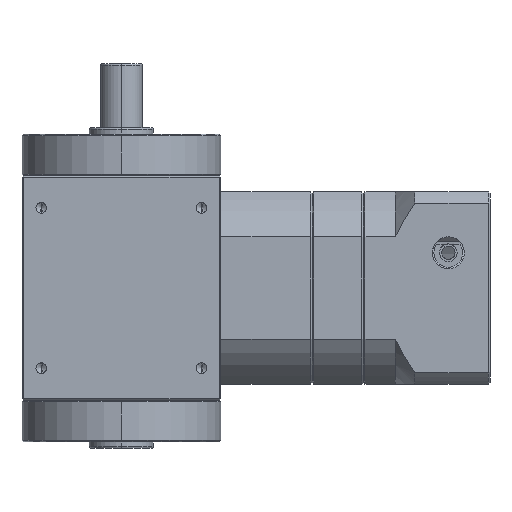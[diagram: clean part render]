
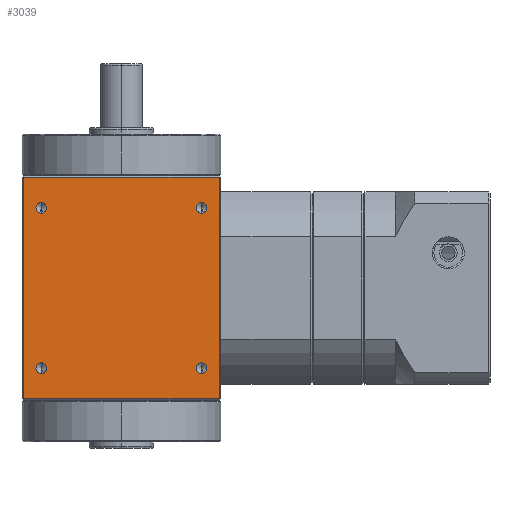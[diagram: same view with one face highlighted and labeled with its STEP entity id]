
A CAD part, left-side view. The second image highlights one B-rep face of the part: STEP entity #3039.
In plain terms, the highlighted planar face has unit normal (-1, 0, 0).
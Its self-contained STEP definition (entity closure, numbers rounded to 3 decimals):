
#647 = ORIENTED_EDGE ( 'NONE', *, *, #1126, .F. ) ;
#648 = ORIENTED_EDGE ( 'NONE', *, *, #2254, .F. ) ;
#649 = ORIENTED_EDGE ( 'NONE', *, *, #1111, .F. ) ;
#650 = ORIENTED_EDGE ( 'NONE', *, *, #1894, .F. ) ;
#651 = ORIENTED_EDGE ( 'NONE', *, *, #1119, .F. ) ;
#652 = ORIENTED_EDGE ( 'NONE', *, *, #1144, .F. ) ;
#653 = ORIENTED_EDGE ( 'NONE', *, *, #1117, .F. ) ;
#654 = ORIENTED_EDGE ( 'NONE', *, *, #1931, .F. ) ;
#655 = ORIENTED_EDGE ( 'NONE', *, *, #1113, .T. ) ;
#656 = ORIENTED_EDGE ( 'NONE', *, *, #1135, .T. ) ;
#657 = ORIENTED_EDGE ( 'NONE', *, *, #1134, .T. ) ;
#658 = ORIENTED_EDGE ( 'NONE', *, *, #1133, .T. ) ;
#1111 = EDGE_CURVE ( 'NONE', #3659, #3656, #4171, .T. ) ;
#1113 = EDGE_CURVE ( 'NONE', #3752, #3733, #4175, .T. ) ;
#1117 = EDGE_CURVE ( 'NONE', #3671, #3670, #4181, .T. ) ;
#1119 = EDGE_CURVE ( 'NONE', #3667, #3666, #4183, .T. ) ;
#1126 = EDGE_CURVE ( 'NONE', #3549, #3551, #4190, .T. ) ;
#1133 = EDGE_CURVE ( 'NONE', #3755, #3752, #4193, .T. ) ;
#1134 = EDGE_CURVE ( 'NONE', #3754, #3755, #4196, .T. ) ;
#1135 = EDGE_CURVE ( 'NONE', #3733, #3754, #4198, .T. ) ;
#1144 = EDGE_CURVE ( 'NONE', #3666, #3667, #4204, .T. ) ;
#1579 = EDGE_LOOP ( 'NONE', ( #651, #652 ) ) ;
#1603 = EDGE_LOOP ( 'NONE', ( #655, #656, #657, #658 ) ) ;
#1644 = EDGE_LOOP ( 'NONE', ( #653, #654 ) ) ;
#1647 = EDGE_LOOP ( 'NONE', ( #649, #650 ) ) ;
#1654 = EDGE_LOOP ( 'NONE', ( #647, #648 ) ) ;
#1894 = EDGE_CURVE ( 'NONE', #3656, #3659, #6447, .T. ) ;
#1931 = EDGE_CURVE ( 'NONE', #3670, #3671, #6508, .T. ) ;
#2254 = EDGE_CURVE ( 'NONE', #3551, #3549, #7937, .T. ) ;
#3039 = ADVANCED_FACE ( 'NONE', ( #8121, #8125, #8123, #8124, #8122 ), #9048, .F. ) ;
#3549 = VERTEX_POINT ( 'NONE', #9298 ) ;
#3551 = VERTEX_POINT ( 'NONE', #9299 ) ;
#3656 = VERTEX_POINT ( 'NONE', #9339 ) ;
#3659 = VERTEX_POINT ( 'NONE', #9352 ) ;
#3666 = VERTEX_POINT ( 'NONE', #9359 ) ;
#3667 = VERTEX_POINT ( 'NONE', #9360 ) ;
#3670 = VERTEX_POINT ( 'NONE', #9363 ) ;
#3671 = VERTEX_POINT ( 'NONE', #9364 ) ;
#3733 = VERTEX_POINT ( 'NONE', #9426 ) ;
#3752 = VERTEX_POINT ( 'NONE', #9445 ) ;
#3754 = VERTEX_POINT ( 'NONE', #9447 ) ;
#3755 = VERTEX_POINT ( 'NONE', #9448 ) ;
#4171 = CIRCLE ( 'NONE', #4824, 1.65 ) ;
#4175 = LINE ( 'NONE', #5421, #4177 ) ;
#4177 = VECTOR ( 'NONE', #5426, 1000. ) ;
#4181 = CIRCLE ( 'NONE', #4826, 1.65 ) ;
#4183 = CIRCLE ( 'NONE', #4828, 1.65 ) ;
#4190 = CIRCLE ( 'NONE', #4830, 1.65 ) ;
#4193 = LINE ( 'NONE', #5519, #4197 ) ;
#4196 = LINE ( 'NONE', #5523, #4199 ) ;
#4197 = VECTOR ( 'NONE', #5512, 1000. ) ;
#4198 = LINE ( 'NONE', #5525, #4201 ) ;
#4199 = VECTOR ( 'NONE', #5524, 1000. ) ;
#4201 = VECTOR ( 'NONE', #5526, 1000. ) ;
#4204 = CIRCLE ( 'NONE', #4834, 1.65 ) ;
#4824 = AXIS2_PLACEMENT_3D ( 'NONE', #5423, #5424, #5425 ) ;
#4826 = AXIS2_PLACEMENT_3D ( 'NONE', #5448, #5449, #5450 ) ;
#4828 = AXIS2_PLACEMENT_3D ( 'NONE', #5456, #5457, #5458 ) ;
#4830 = AXIS2_PLACEMENT_3D ( 'NONE', #5477, #5478, #5479 ) ;
#4834 = AXIS2_PLACEMENT_3D ( 'NONE', #5584, #5585, #5586 ) ;
#4962 = AXIS2_PLACEMENT_3D ( 'NONE', #6206, #6207, #6208 ) ;
#4970 = AXIS2_PLACEMENT_3D ( 'NONE', #6883, #6884, #6885 ) ;
#5086 = AXIS2_PLACEMENT_3D ( 'NONE', #8584, #8585, #8586 ) ;
#5421 = CARTESIAN_POINT ( 'NONE',  ( -31., -31., -34.5 ) ) ;
#5423 = CARTESIAN_POINT ( 'NONE',  ( -31., 25., 25. ) ) ;
#5424 = DIRECTION ( 'NONE',  ( -1., 0., 0. ) ) ;
#5425 = DIRECTION ( 'NONE',  ( 0., 0., 1. ) ) ;
#5426 = DIRECTION ( 'NONE',  ( 0., -1., 0. ) ) ;
#5448 = CARTESIAN_POINT ( 'NONE',  ( -31., -25., -25. ) ) ;
#5449 = DIRECTION ( 'NONE',  ( -1., 0., 0. ) ) ;
#5450 = DIRECTION ( 'NONE',  ( 0., 0., 1. ) ) ;
#5456 = CARTESIAN_POINT ( 'NONE',  ( -31., -25., 25. ) ) ;
#5457 = DIRECTION ( 'NONE',  ( -1., 0., 0. ) ) ;
#5458 = DIRECTION ( 'NONE',  ( 0., 0., 1. ) ) ;
#5477 = CARTESIAN_POINT ( 'NONE',  ( -31., 25., -25. ) ) ;
#5478 = DIRECTION ( 'NONE',  ( -1., 0., 0. ) ) ;
#5479 = DIRECTION ( 'NONE',  ( 0., 0., 1. ) ) ;
#5512 = DIRECTION ( 'NONE',  ( 0., 0., -1. ) ) ;
#5519 = CARTESIAN_POINT ( 'NONE',  ( -31., 30.5, 35. ) ) ;
#5523 = CARTESIAN_POINT ( 'NONE',  ( -31., 31., 34.5 ) ) ;
#5524 = DIRECTION ( 'NONE',  ( 0., 1., 0. ) ) ;
#5525 = CARTESIAN_POINT ( 'NONE',  ( -31., -30.5, 35. ) ) ;
#5526 = DIRECTION ( 'NONE',  ( 0., 0., 1. ) ) ;
#5584 = CARTESIAN_POINT ( 'NONE',  ( -31., -25., 25. ) ) ;
#5585 = DIRECTION ( 'NONE',  ( -1., 0., 0. ) ) ;
#5586 = DIRECTION ( 'NONE',  ( 0., 0., 1. ) ) ;
#6206 = CARTESIAN_POINT ( 'NONE',  ( -31., 25., 25. ) ) ;
#6207 = DIRECTION ( 'NONE',  ( -1., 0., 0. ) ) ;
#6208 = DIRECTION ( 'NONE',  ( 0., 0., 1. ) ) ;
#6447 = CIRCLE ( 'NONE', #4962, 1.65 ) ;
#6508 = CIRCLE ( 'NONE', #4970, 1.65 ) ;
#6883 = CARTESIAN_POINT ( 'NONE',  ( -31., -25., -25. ) ) ;
#6884 = DIRECTION ( 'NONE',  ( -1., 0., 0. ) ) ;
#6885 = DIRECTION ( 'NONE',  ( 0., 0., 1. ) ) ;
#7937 = CIRCLE ( 'NONE', #5086, 1.65 ) ;
#8121 = FACE_BOUND ( 'NONE', #1654, .T. ) ;
#8122 = FACE_OUTER_BOUND ( 'NONE', #1603, .T. ) ;
#8123 = FACE_BOUND ( 'NONE', #1579, .T. ) ;
#8124 = FACE_BOUND ( 'NONE', #1644, .T. ) ;
#8125 = FACE_BOUND ( 'NONE', #1647, .T. ) ;
#8584 = CARTESIAN_POINT ( 'NONE',  ( -31., 25., -25. ) ) ;
#8585 = DIRECTION ( 'NONE',  ( -1., 0., 0. ) ) ;
#8586 = DIRECTION ( 'NONE',  ( 0., 0., 1. ) ) ;
#9042 = DIRECTION ( 'NONE',  ( 1., 0., 0. ) ) ;
#9045 = CARTESIAN_POINT ( 'NONE',  ( -31., -31., 35. ) ) ;
#9048 = PLANE ( 'NONE',  #9502 ) ;
#9051 = DIRECTION ( 'NONE',  ( 0., 0., -1. ) ) ;
#9298 = CARTESIAN_POINT ( 'NONE',  ( -31., 25., -23.35 ) ) ;
#9299 = CARTESIAN_POINT ( 'NONE',  ( -31., 25., -26.65 ) ) ;
#9339 = CARTESIAN_POINT ( 'NONE',  ( -31., 25., 23.35 ) ) ;
#9352 = CARTESIAN_POINT ( 'NONE',  ( -31., 25., 26.65 ) ) ;
#9359 = CARTESIAN_POINT ( 'NONE',  ( -31., -25., 23.35 ) ) ;
#9360 = CARTESIAN_POINT ( 'NONE',  ( -31., -25., 26.65 ) ) ;
#9363 = CARTESIAN_POINT ( 'NONE',  ( -31., -25., -26.65 ) ) ;
#9364 = CARTESIAN_POINT ( 'NONE',  ( -31., -25., -23.35 ) ) ;
#9426 = CARTESIAN_POINT ( 'NONE',  ( -31., -30.5, -34.5 ) ) ;
#9445 = CARTESIAN_POINT ( 'NONE',  ( -31., 30.5, -34.5 ) ) ;
#9447 = CARTESIAN_POINT ( 'NONE',  ( -31., -30.5, 34.5 ) ) ;
#9448 = CARTESIAN_POINT ( 'NONE',  ( -31., 30.5, 34.5 ) ) ;
#9502 = AXIS2_PLACEMENT_3D ( 'NONE', #9045, #9042, #9051 ) ;
